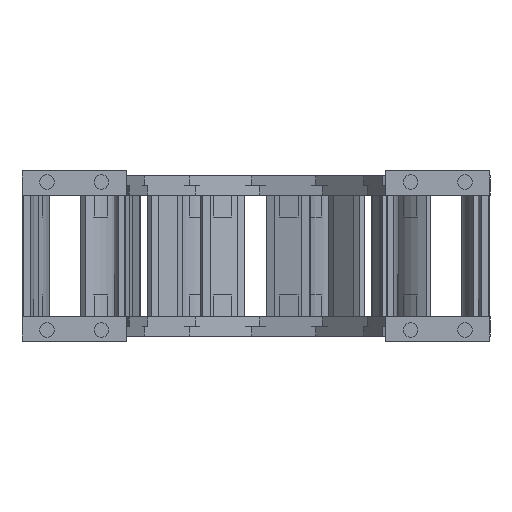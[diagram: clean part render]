
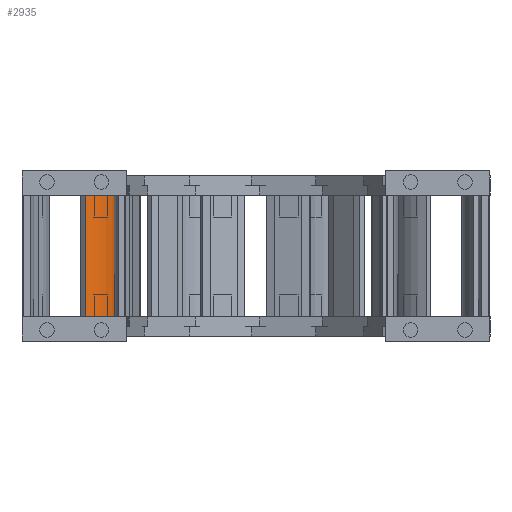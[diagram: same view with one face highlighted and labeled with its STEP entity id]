
A CAD part, left-side view. The second image highlights one B-rep face of the part: STEP entity #2935.
In plain terms, the highlighted cylindrical face has radius 52 mm (diameter 104 mm), a partial arc.
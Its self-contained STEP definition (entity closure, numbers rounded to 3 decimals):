
#2691=CARTESIAN_POINT('',(0.,45.5,37.5));
#2692=DIRECTION('',(0.,0.,-1.));
#2693=DIRECTION('',(0.346,-0.938,0.));
#2694=AXIS2_PLACEMENT_3D('',#2691,#2692,#2693);
#2734=DIRECTION('',(0.,0.,-1.));
#2735=VECTOR('',#2734,100.3);
#2736=CARTESIAN_POINT('',(18.,-3.285,37.5));
#2737=LINE('',#2736,#2735);
#2741=DIRECTION('',(0.,0.,1.));
#2742=VECTOR('',#2741,100.3);
#2743=CARTESIAN_POINT('',(-18.,-3.285,-62.8));
#2744=LINE('',#2743,#2742);
#2769=CARTESIAN_POINT('',(0.,45.5,-62.8));
#2770=DIRECTION('',(0.,0.,1.));
#2771=DIRECTION('',(-0.346,-0.938,0.));
#2772=AXIS2_PLACEMENT_3D('',#2769,#2770,#2771);
#2813=CARTESIAN_POINT('',(18.,-3.285,-62.8));
#2815=VERTEX_POINT('',#2813);
#2816=CARTESIAN_POINT('',(-18.,-3.285,-62.8));
#2817=VERTEX_POINT('',#2816);
#2824=CARTESIAN_POINT('',(18.,-3.285,37.5));
#2825=VERTEX_POINT('',#2824);
#2828=CARTESIAN_POINT('',(-18.,-3.285,37.5));
#2829=VERTEX_POINT('',#2828);
#2921=CARTESIAN_POINT('',(0.,45.5,12.2));
#2922=DIRECTION('',(0.,0.,1.));
#2923=DIRECTION('',(1.,0.,0.));
#2924=AXIS2_PLACEMENT_3D('',#2921,#2922,#2923);
#2925=CYLINDRICAL_SURFACE('',#2924,52.);
#2927=ORIENTED_EDGE('',*,*,#2926,.T.);
#2929=ORIENTED_EDGE('',*,*,#2928,.F.);
#2931=ORIENTED_EDGE('',*,*,#2930,.T.);
#2932=ORIENTED_EDGE('',*,*,#2896,.F.);
#2933=EDGE_LOOP('',(#2927,#2929,#2931,#2932));
#2934=FACE_OUTER_BOUND('',#2933,.F.);
#2935=ADVANCED_FACE('',(#2934),#2925,.T.);
#2695=CIRCLE('',#2694,52.);
#2773=CIRCLE('',#2772,52.);
#2896=EDGE_CURVE('',#2825,#2829,#2695,.T.);
#2926=EDGE_CURVE('',#2825,#2815,#2737,.T.);
#2928=EDGE_CURVE('',#2817,#2815,#2773,.T.);
#2930=EDGE_CURVE('',#2817,#2829,#2744,.T.);
